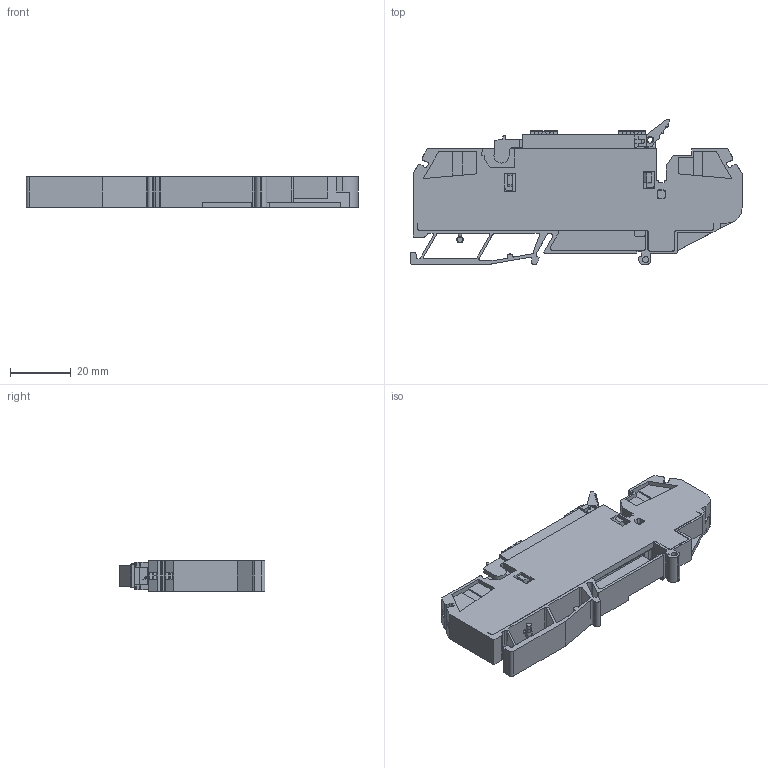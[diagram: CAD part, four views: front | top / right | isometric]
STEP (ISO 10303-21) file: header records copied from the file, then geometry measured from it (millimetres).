
FILE_DESCRIPTION((''),'2;1');
FILE_NAME('1492-RAFB4','2010-04-23T',('EJVarlan'),('Rockwell Automation'),'PRO/ENGINEER BY PARAMETRIC TECHNOLOGY CORPORATION, 2005110','PRO/ENGINEER BY PARAMETRIC TECHNOLOGY CORPORATION, 2005110','');
FILE_SCHEMA(('CONFIG_CONTROL_DESIGN'));
Length unit declared in the file: millimetre
Products named in the file (1): 1492-RAFB4
Bounding box: 109.5 x 48.11 x 10 mm (x, y, z)
Volume: 19535.4 mm3; surface area: 27030.3 mm2
Topology: 1 solids, 15 shells, 1644 faces, 4802 edges, 3160 vertices
Faces by surface type: plane 1094, cylinder 433, cone 73, bspline 28, torus 6, sphere 6, extrusion 4
Entity records: 55937 total; most frequent: CARTESIAN_POINT 12141, ORIENTED_EDGE 9592, DIRECTION 8541, EDGE_CURVE 4796, VECTOR 3661, LINE 3657, VERTEX_POINT 3160, AXIS2_PLACEMENT_3D 2440
